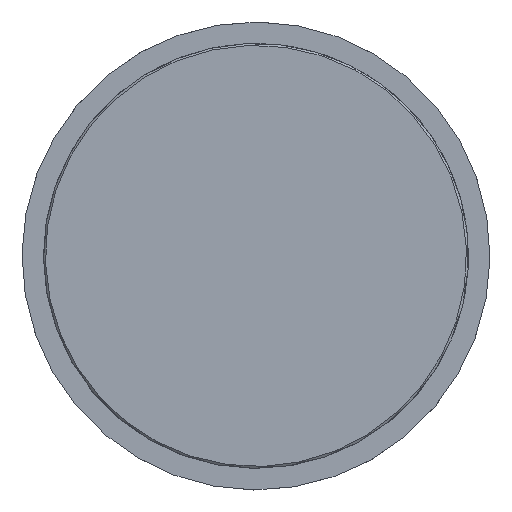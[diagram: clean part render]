
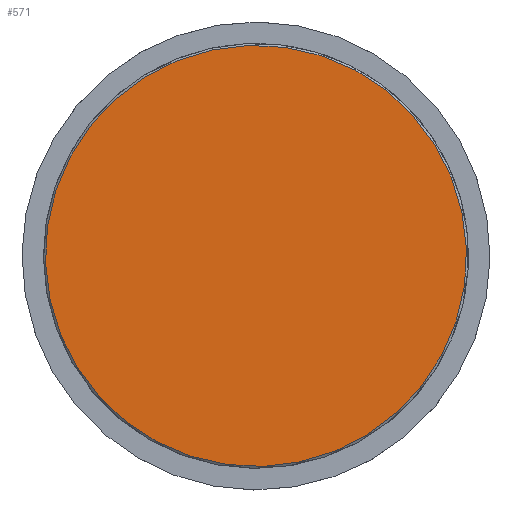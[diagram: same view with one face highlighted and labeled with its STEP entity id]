
A CAD part, top view. The second image highlights one B-rep face of the part: STEP entity #571.
In plain terms, the highlighted planar face has unit normal (0, 0, 1).
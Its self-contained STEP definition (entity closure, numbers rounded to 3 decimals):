
#571=ADVANCED_FACE('',(#630),#614,.T.);
#614=PLANE('',#1273);
#630=FACE_OUTER_BOUND('',#647,.T.);
#647=EDGE_LOOP('',(#723));
#723=ORIENTED_EDGE('',*,*,#1104,.T.);
#983=VERTEX_POINT('',#1567);
#1104=EDGE_CURVE('',#983,#983,#1234,.T.);
#1234=CIRCLE('',#1272,11.25);
#1272=AXIS2_PLACEMENT_3D('',#1566,#1354,#1355);
#1273=AXIS2_PLACEMENT_3D('',#1568,#1356,#1357);
#1354=DIRECTION('',(0.,0.,1.));
#1355=DIRECTION('',(-0.375,0.927,0.));
#1356=DIRECTION('',(0.,0.,1.));
#1357=DIRECTION('',(-0.009,-1.,0.));
#1566=CARTESIAN_POINT('',(0.,0.,0.3));
#1567=CARTESIAN_POINT('',(-4.214,10.431,0.3));
#1568=CARTESIAN_POINT('',(0.,0.,0.3));
